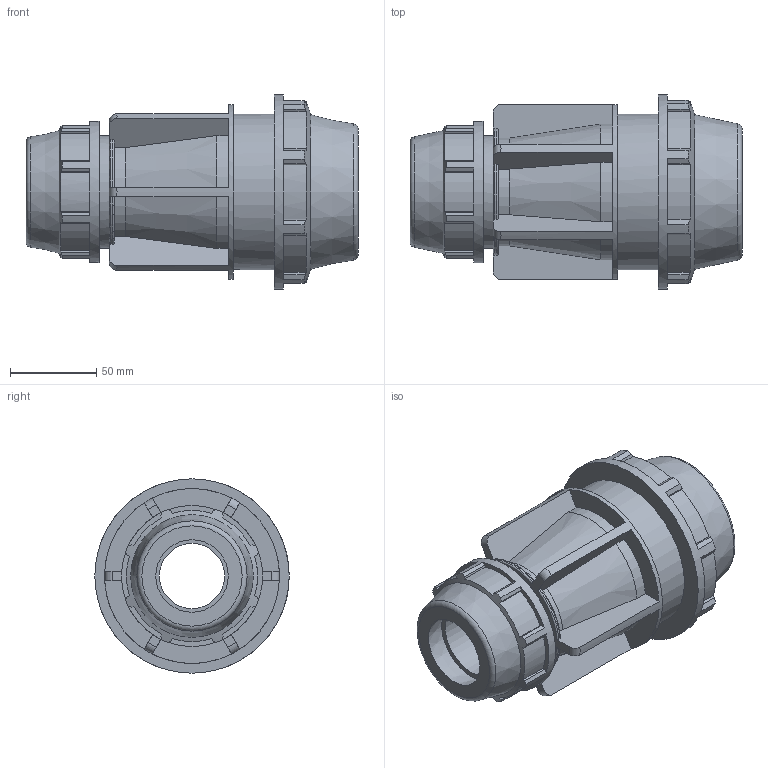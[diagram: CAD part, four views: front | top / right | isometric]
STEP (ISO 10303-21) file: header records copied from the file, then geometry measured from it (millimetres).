
FILE_DESCRIPTION(/* description */ ('PLASSON REDUCING COUPLER 2'''' - 1 1/4'''''),/* implementation_level */ '2;1');
FILE_NAME(/* name */ 'C:\Dropbox\KIMPROJECTS-Inventor 2019\99-16-3568-Processing Inch\ASTM Compression 2021\0711M0\0711M0020013.ipt.stp',/* time_stamp */ '2021-08-26T12:33:01+03:00',/* author */ ('KIM'),/* organization */ (''),/* preprocessor_version */ 'ST-DEVELOPER v17.2',/* originating_system */ 'Autodesk Inventor 2019',/* authorisation */ '');
FILE_SCHEMA (('AUTOMOTIVE_DESIGN { 1 0 10303 214 3 1 1 }'));
Length unit declared in the file: inch
Products named in the file (1): 0711M0020013
Bounding box: 193 x 113.03 x 113.03 mm (x, y, z)
Volume: 621171.9 mm3; surface area: 115526.9 mm2
Topology: 1 solids, 1 shells, 213 faces, 633 edges, 430 vertices
Faces by surface type: plane 138, cylinder 47, cone 14, torus 14
Full cylindrical faces by diameter (mm): 42.1 x1, 60.1 x1, 65.634 x1, 82.042 x1, 90.424 x1, 101.727 x1, 113.03 x1
Entity records: 7627 total; most frequent: CARTESIAN_POINT 1617, ORIENTED_EDGE 1266, DIRECTION 1177, EDGE_CURVE 633, VERTEX_POINT 430, AXIS2_PLACEMENT_3D 410, LINE 357, VECTOR 357
